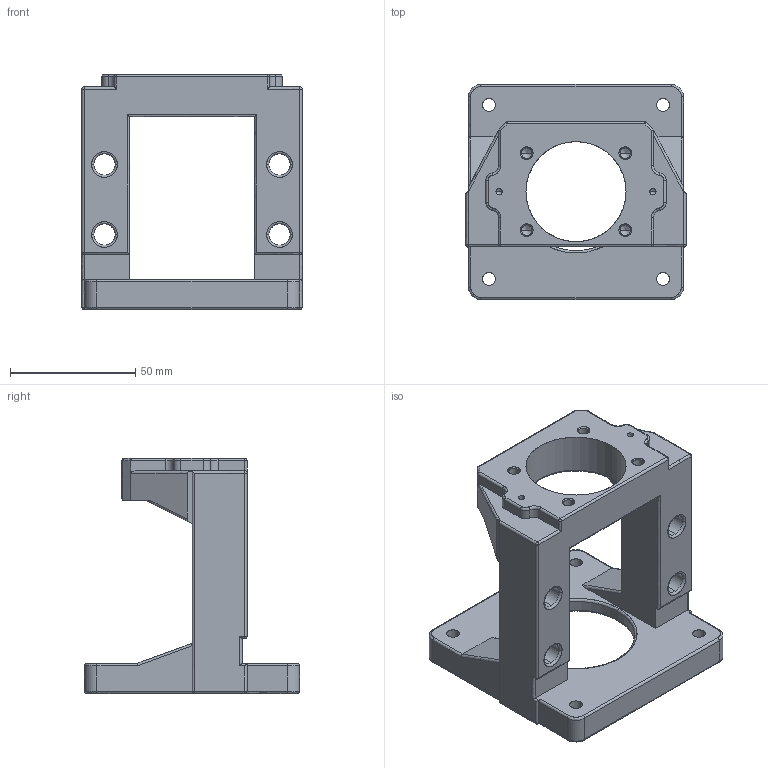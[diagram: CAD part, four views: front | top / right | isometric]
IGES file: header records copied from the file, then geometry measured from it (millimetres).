
Start section: SolidWorks IGES file using analytic representation for surfaces
Bounding box: 88 x 86 x 94 mm (x, y, z)
Surface area: 41198.8 mm2 (no closed solid volume)
Topology: 0 solids, 0 shells, 247 faces, 3000 edges, 2976 vertices
Faces by surface type: revolution 160, bspline 87
